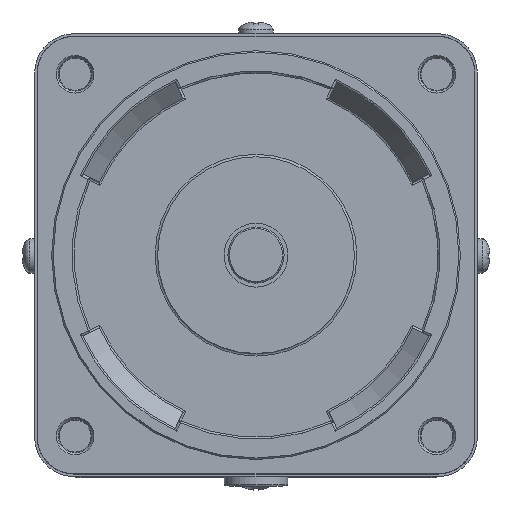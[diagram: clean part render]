
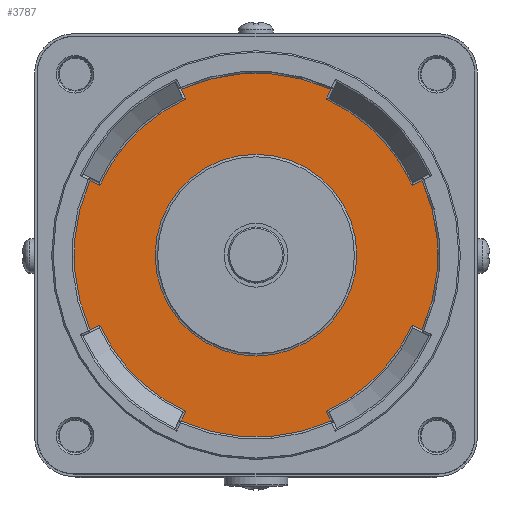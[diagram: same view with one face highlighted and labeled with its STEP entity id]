
A CAD part, top view. The second image highlights one B-rep face of the part: STEP entity #3787.
In plain terms, the highlighted planar face has unit normal (0, 0, 1).
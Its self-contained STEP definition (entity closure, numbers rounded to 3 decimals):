
#73 = EDGE_CURVE ( 'NONE', #4332, #5222, #4736, .T. ) ;
#88 = VERTEX_POINT ( 'NONE', #4666 ) ;
#286 = VECTOR ( 'NONE', #3675, 1000. ) ;
#552 = LINE ( 'NONE', #4686, #286 ) ;
#630 = EDGE_LOOP ( 'NONE', ( #5209 ) ) ;
#631 = DIRECTION ( 'NONE',  ( 0.906, 0.423, 0. ) ) ;
#647 = ORIENTED_EDGE ( 'NONE', *, *, #12138, .T. ) ;
#703 = CARTESIAN_POINT ( 'NONE',  ( 31.725, -14.242, -2. ) ) ;
#902 = CARTESIAN_POINT ( 'NONE',  ( 15.177, -33.73, -2. ) ) ;
#922 = CARTESIAN_POINT ( 'NONE',  ( -14.338, 31.932, -2. ) ) ;
#1016 = EDGE_CURVE ( 'NONE', #1934, #88, #5029, .T. ) ;
#1036 = ORIENTED_EDGE ( 'NONE', *, *, #9173, .T. ) ;
#1327 = CARTESIAN_POINT ( 'NONE',  ( -33.73, 15.177, -2. ) ) ;
#1361 = AXIS2_PLACEMENT_3D ( 'NONE', #5055, #5128, #10399 ) ;
#1366 = EDGE_CURVE ( 'NONE', #5240, #9312, #552, .T. ) ;
#1519 = EDGE_CURVE ( 'NONE', #12705, #3518, #6991, .T. ) ;
#1607 = DIRECTION ( 'NONE',  ( 0., 0., 1. ) ) ;
#1875 = ORIENTED_EDGE ( 'NONE', *, *, #1519, .T. ) ;
#1934 = VERTEX_POINT ( 'NONE', #12958 ) ;
#1950 = VERTEX_POINT ( 'NONE', #902 ) ;
#2010 = CARTESIAN_POINT ( 'NONE',  ( 0.453, -0.211, -2. ) ) ;
#2276 = VECTOR ( 'NONE', #6269, 1000. ) ;
#2354 = DIRECTION ( 'NONE',  ( 0., 0., 1. ) ) ;
#2366 = CARTESIAN_POINT ( 'NONE',  ( -31.725, 14.242, -2. ) ) ;
#2537 = VECTOR ( 'NONE', #2731, 1000. ) ;
#2573 = CARTESIAN_POINT ( 'NONE',  ( 31.932, 14.338, -2. ) ) ;
#2650 = ORIENTED_EDGE ( 'NONE', *, *, #11488, .T. ) ;
#2731 = DIRECTION ( 'NONE',  ( -0.906, 0.423, 0. ) ) ;
#2813 = VERTEX_POINT ( 'NONE', #7843 ) ;
#3107 = CARTESIAN_POINT ( 'NONE',  ( -15.177, 33.73, -2. ) ) ;
#3189 = ORIENTED_EDGE ( 'NONE', *, *, #7448, .T. ) ;
#3287 = CARTESIAN_POINT ( 'NONE',  ( 33.73, -15.177, -2. ) ) ;
#3392 = CARTESIAN_POINT ( 'NONE',  ( 0., 0., -2. ) ) ;
#3472 = CARTESIAN_POINT ( 'NONE',  ( 0., 0., -2. ) ) ;
#3518 = VERTEX_POINT ( 'NONE', #3107 ) ;
#3646 = FACE_BOUND ( 'NONE', #630, .T. ) ;
#3675 = DIRECTION ( 'NONE',  ( 0.906, -0.423, 0. ) ) ;
#3787 = ADVANCED_FACE ( 'NONE', ( #11956, #3646 ), #12096, .T. ) ;
#3818 = EDGE_CURVE ( 'NONE', #5011, #1950, #7475, .T. ) ;
#3926 = DIRECTION ( 'NONE',  ( 1., 0., 0. ) ) ;
#4022 = CARTESIAN_POINT ( 'NONE',  ( -31.932, -14.338, -2. ) ) ;
#4045 = EDGE_CURVE ( 'NONE', #12196, #12705, #7599, .T. ) ;
#4332 = VERTEX_POINT ( 'NONE', #9086 ) ;
#4356 = DIRECTION ( 'NONE',  ( 0., 0., 1. ) ) ;
#4494 = EDGE_CURVE ( 'NONE', #9312, #4332, #10741, .T. ) ;
#4592 = EDGE_CURVE ( 'NONE', #9876, #10233, #12949, .T. ) ;
#4666 = CARTESIAN_POINT ( 'NONE',  ( -31.725, -14.242, -2. ) ) ;
#4686 = CARTESIAN_POINT ( 'NONE',  ( 0.211, 0.453, -2. ) ) ;
#4736 = LINE ( 'NONE', #2573, #8935 ) ;
#4780 = CIRCLE ( 'NONE', #12349, 36.987 ) ;
#5011 = VERTEX_POINT ( 'NONE', #5183 ) ;
#5029 = LINE ( 'NONE', #4022, #11567 ) ;
#5055 = CARTESIAN_POINT ( 'NONE',  ( 0., 0., -2. ) ) ;
#5110 = VERTEX_POINT ( 'NONE', #11331 ) ;
#5128 = DIRECTION ( 'NONE',  ( 0., 0., 1. ) ) ;
#5182 = CARTESIAN_POINT ( 'NONE',  ( 14.242, 31.725, -2. ) ) ;
#5183 = CARTESIAN_POINT ( 'NONE',  ( -15.177, -33.73, -2. ) ) ;
#5208 = VECTOR ( 'NONE', #11584, 1000. ) ;
#5209 = ORIENTED_EDGE ( 'NONE', *, *, #10455, .T. ) ;
#5222 = VERTEX_POINT ( 'NONE', #13103 ) ;
#5240 = VERTEX_POINT ( 'NONE', #703 ) ;
#5757 = DIRECTION ( 'NONE',  ( -0.906, -0.423, 0. ) ) ;
#5806 = DIRECTION ( 'NONE',  ( 1., 0., 0. ) ) ;
#6167 = AXIS2_PLACEMENT_3D ( 'NONE', #11628, #2354, #9315 ) ;
#6192 = VECTOR ( 'NONE', #9305, 1000. ) ;
#6216 = EDGE_LOOP ( 'NONE', ( #6907, #10305, #9992, #1036, #7607, #1875, #647, #10922, #7970, #8930, #9114, #3189, #11743, #11523, #11920, #2650 ) ) ;
#6269 = DIRECTION ( 'NONE',  ( 0.423, -0.906, 0. ) ) ;
#6319 = DIRECTION ( 'NONE',  ( 0., 0., 1. ) ) ;
#6375 = CARTESIAN_POINT ( 'NONE',  ( 0., 0., -2. ) ) ;
#6523 = VERTEX_POINT ( 'NONE', #12152 ) ;
#6679 = DIRECTION ( 'NONE',  ( 1., 0., 0. ) ) ;
#6907 = ORIENTED_EDGE ( 'NONE', *, *, #1366, .T. ) ;
#6970 = CIRCLE ( 'NONE', #1361, 34.775 ) ;
#6991 = CIRCLE ( 'NONE', #6167, 36.987 ) ;
#7343 = LINE ( 'NONE', #2010, #6192 ) ;
#7382 = EDGE_CURVE ( 'NONE', #1950, #6523, #9750, .T. ) ;
#7448 = EDGE_CURVE ( 'NONE', #88, #2813, #7802, .T. ) ;
#7457 = CARTESIAN_POINT ( 'NONE',  ( 0., 0., -2. ) ) ;
#7469 = AXIS2_PLACEMENT_3D ( 'NONE', #11076, #10066, #5806 ) ;
#7475 = CIRCLE ( 'NONE', #13312, 36.987 ) ;
#7599 = LINE ( 'NONE', #11739, #8997 ) ;
#7607 = ORIENTED_EDGE ( 'NONE', *, *, #4045, .T. ) ;
#7802 = CIRCLE ( 'NONE', #9966, 34.775 ) ;
#7843 = CARTESIAN_POINT ( 'NONE',  ( -14.242, -31.725, -2. ) ) ;
#7845 = CARTESIAN_POINT ( 'NONE',  ( 0., 0., -2. ) ) ;
#7926 = AXIS2_PLACEMENT_3D ( 'NONE', #7457, #6319, #10637 ) ;
#7970 = ORIENTED_EDGE ( 'NONE', *, *, #4592, .T. ) ;
#8051 = EDGE_CURVE ( 'NONE', #10233, #1934, #4780, .T. ) ;
#8526 = DIRECTION ( 'NONE',  ( 1., 0., 0. ) ) ;
#8528 = CARTESIAN_POINT ( 'NONE',  ( 14.338, -31.932, -2. ) ) ;
#8531 = CIRCLE ( 'NONE', #13282, 34.775 ) ;
#8650 = DIRECTION ( 'NONE',  ( 0., 0., 1. ) ) ;
#8664 = EDGE_CURVE ( 'NONE', #9774, #9876, #8680, .T. ) ;
#8667 = DIRECTION ( 'NONE',  ( 0., 0., -1. ) ) ;
#8680 = CIRCLE ( 'NONE', #11072, 34.775 ) ;
#8930 = ORIENTED_EDGE ( 'NONE', *, *, #8051, .T. ) ;
#8935 = VECTOR ( 'NONE', #5757, 1000. ) ;
#8997 = VECTOR ( 'NONE', #12497, 1000. ) ;
#9086 = CARTESIAN_POINT ( 'NONE',  ( 33.73, 15.177, -2. ) ) ;
#9114 = ORIENTED_EDGE ( 'NONE', *, *, #1016, .T. ) ;
#9173 = EDGE_CURVE ( 'NONE', #5222, #12196, #6970, .T. ) ;
#9305 = DIRECTION ( 'NONE',  ( -0.423, -0.906, 0. ) ) ;
#9312 = VERTEX_POINT ( 'NONE', #3287 ) ;
#9315 = DIRECTION ( 'NONE',  ( 1., 0., 0. ) ) ;
#9352 = CARTESIAN_POINT ( 'NONE',  ( 0., 0., -2. ) ) ;
#9630 = CARTESIAN_POINT ( 'NONE',  ( 15.177, 33.73, -2. ) ) ;
#9750 = LINE ( 'NONE', #8528, #5208 ) ;
#9774 = VERTEX_POINT ( 'NONE', #13398 ) ;
#9845 = CIRCLE ( 'NONE', #12875, 20.5 ) ;
#9876 = VERTEX_POINT ( 'NONE', #2366 ) ;
#9966 = AXIS2_PLACEMENT_3D ( 'NONE', #6375, #10494, #12595 ) ;
#9992 = ORIENTED_EDGE ( 'NONE', *, *, #73, .T. ) ;
#10066 = DIRECTION ( 'NONE',  ( 0., 0., 1. ) ) ;
#10194 = LINE ( 'NONE', #922, #2276 ) ;
#10233 = VERTEX_POINT ( 'NONE', #1327 ) ;
#10305 = ORIENTED_EDGE ( 'NONE', *, *, #4494, .T. ) ;
#10399 = DIRECTION ( 'NONE',  ( 1., 0., 0. ) ) ;
#10440 = DIRECTION ( 'NONE',  ( 1., 0., 0. ) ) ;
#10455 = EDGE_CURVE ( 'NONE', #5110, #5110, #9845, .T. ) ;
#10494 = DIRECTION ( 'NONE',  ( 0., 0., 1. ) ) ;
#10637 = DIRECTION ( 'NONE',  ( 1., 0., 0. ) ) ;
#10741 = CIRCLE ( 'NONE', #7926, 36.987 ) ;
#10843 = CARTESIAN_POINT ( 'NONE',  ( -0.211, -0.453, -2. ) ) ;
#10872 = CARTESIAN_POINT ( 'NONE',  ( 0., 0., -2. ) ) ;
#10922 = ORIENTED_EDGE ( 'NONE', *, *, #8664, .T. ) ;
#11072 = AXIS2_PLACEMENT_3D ( 'NONE', #7845, #11098, #3926 ) ;
#11076 = CARTESIAN_POINT ( 'NONE',  ( 0., 0., -2. ) ) ;
#11098 = DIRECTION ( 'NONE',  ( 0., 0., 1. ) ) ;
#11331 = CARTESIAN_POINT ( 'NONE',  ( 20.5, 0., -2. ) ) ;
#11488 = EDGE_CURVE ( 'NONE', #6523, #5240, #8531, .T. ) ;
#11523 = ORIENTED_EDGE ( 'NONE', *, *, #3818, .T. ) ;
#11567 = VECTOR ( 'NONE', #631, 1000. ) ;
#11584 = DIRECTION ( 'NONE',  ( -0.423, 0.906, 0. ) ) ;
#11628 = CARTESIAN_POINT ( 'NONE',  ( 0., 0., -2. ) ) ;
#11739 = CARTESIAN_POINT ( 'NONE',  ( -0.453, 0.211, -2. ) ) ;
#11743 = ORIENTED_EDGE ( 'NONE', *, *, #13187, .T. ) ;
#11793 = DIRECTION ( 'NONE',  ( 1., 0., 0. ) ) ;
#11920 = ORIENTED_EDGE ( 'NONE', *, *, #7382, .T. ) ;
#11956 = FACE_OUTER_BOUND ( 'NONE', #6216, .T. ) ;
#12096 = PLANE ( 'NONE',  #7469 ) ;
#12138 = EDGE_CURVE ( 'NONE', #3518, #9774, #10194, .T. ) ;
#12152 = CARTESIAN_POINT ( 'NONE',  ( 14.242, -31.725, -2. ) ) ;
#12196 = VERTEX_POINT ( 'NONE', #5182 ) ;
#12349 = AXIS2_PLACEMENT_3D ( 'NONE', #9352, #4356, #10440 ) ;
#12497 = DIRECTION ( 'NONE',  ( 0.423, 0.906, 0. ) ) ;
#12595 = DIRECTION ( 'NONE',  ( 1., 0., 0. ) ) ;
#12705 = VERTEX_POINT ( 'NONE', #9630 ) ;
#12875 = AXIS2_PLACEMENT_3D ( 'NONE', #3472, #8667, #11793 ) ;
#12949 = LINE ( 'NONE', #10843, #2537 ) ;
#12958 = CARTESIAN_POINT ( 'NONE',  ( -33.73, -15.177, -2. ) ) ;
#13103 = CARTESIAN_POINT ( 'NONE',  ( 31.725, 14.242, -2. ) ) ;
#13187 = EDGE_CURVE ( 'NONE', #2813, #5011, #7343, .T. ) ;
#13282 = AXIS2_PLACEMENT_3D ( 'NONE', #3392, #8650, #8526 ) ;
#13312 = AXIS2_PLACEMENT_3D ( 'NONE', #10872, #1607, #6679 ) ;
#13398 = CARTESIAN_POINT ( 'NONE',  ( -14.242, 31.725, -2. ) ) ;
